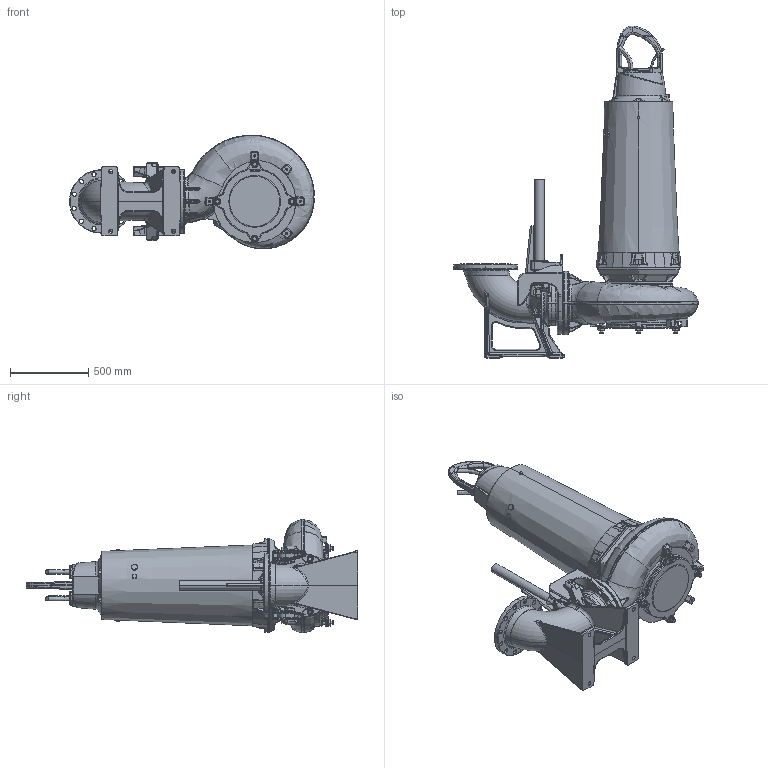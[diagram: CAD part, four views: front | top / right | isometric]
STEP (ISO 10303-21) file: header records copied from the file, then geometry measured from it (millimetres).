
FILE_DESCRIPTION (( 'STEP AP214' ), '1' );
FILE_NAME ('PE5_XFP250J-CB2_WET_B_NG2.STEP', '2017-03-07T11:35:41', ( '' ), ( '' ), 'SwSTEP 2.0', 'SolidWorks 2017', '' );
FILE_SCHEMA (( 'AUTOMOTIVE_DESIGN' ));
Length unit declared in the file: millimetre
Products named in the file (1): PE5_XFP250J-CB2_WET_B_NG2
Bounding box: 1561.43 x 2117.44 x 724.55 mm (x, y, z)
Volume: 384767964.5 mm3; surface area: 6629631.7 mm2
Topology: 4 solids, 18 shells, 4391 faces, 11018 edges, 6572 vertices
Faces by surface type: bspline 1386, cylinder 1172, plane 1013, cone 367, torus 346, sphere 107
Entity records: 353120 total; most frequent: CARTESIAN_POINT 212197, ORIENTED_EDGE 21736, DIRECTION 16428, EDGE_CURVE 10868, VERTEX_POINT 6570, AXIS2_PLACEMENT_3D 6541, EDGE_LOOP 4590, UNCERTAINTY_MEASURE_WITH_UNIT 4397
